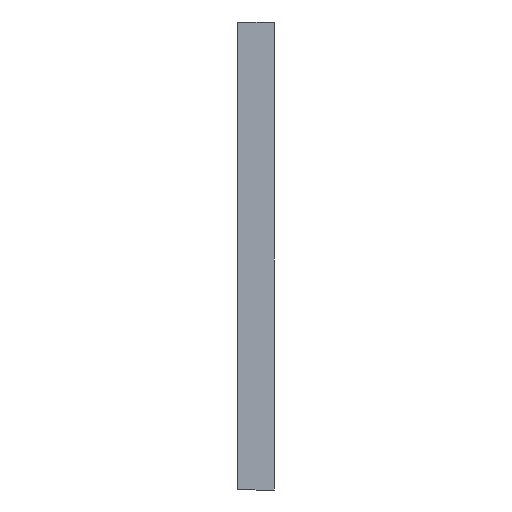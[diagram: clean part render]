
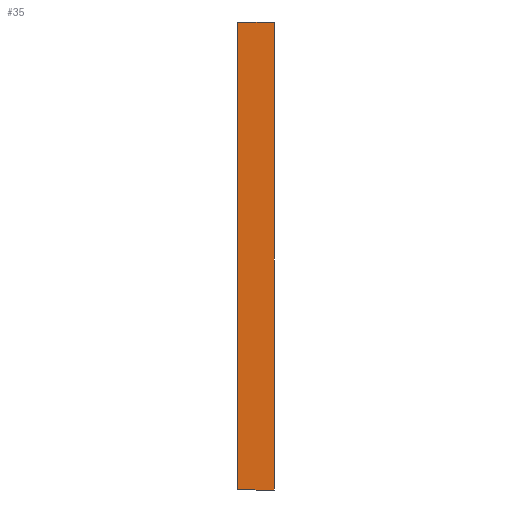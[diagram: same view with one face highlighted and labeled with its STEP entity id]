
A CAD part, front view. The second image highlights one B-rep face of the part: STEP entity #35.
In plain terms, the highlighted planar face has unit normal (0, -1, 0) as drawn and (-1, 0, 0) by its records, which use the part's own axes.
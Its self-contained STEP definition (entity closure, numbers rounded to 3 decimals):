
#35 = ADVANCED_FACE('',(#36),#50,.T.);
#36 = FACE_BOUND('',#37,.T.);
#37 = EDGE_LOOP('',(#38,#73,#101,#129));
#38 = ORIENTED_EDGE('',*,*,#39,.T.);
#39 = EDGE_CURVE('',#40,#42,#44,.T.);
#40 = VERTEX_POINT('',#41);
#41 = CARTESIAN_POINT('',(-38.95,-19.38,0.));
#42 = VERTEX_POINT('',#43);
#43 = CARTESIAN_POINT('',(-38.95,-19.38,2.995));
#44 = SURFACE_CURVE('',#45,(#49,#61),.PCURVE_S1.);
#45 = LINE('',#46,#47);
#46 = CARTESIAN_POINT('',(-38.95,-19.38,0.));
#47 = VECTOR('',#48,1.);
#48 = DIRECTION('',(0.,0.,1.));
#49 = PCURVE('',#50,#55);
#50 = PLANE('',#51);
#51 = AXIS2_PLACEMENT_3D('',#52,#53,#54);
#52 = CARTESIAN_POINT('',(-38.95,-19.38,0.));
#53 = DIRECTION('',(-1.,0.,0.));
#54 = DIRECTION('',(0.,1.,0.));
#55 = DEFINITIONAL_REPRESENTATION('',(#56),#60);
#56 = LINE('',#57,#58);
#57 = CARTESIAN_POINT('',(0.,0.));
#58 = VECTOR('',#59,1.);
#59 = DIRECTION('',(0.,-1.));
#60 = ( GEOMETRIC_REPRESENTATION_CONTEXT(2) 
PARAMETRIC_REPRESENTATION_CONTEXT() REPRESENTATION_CONTEXT('2D SPACE',''
  ) );
#61 = PCURVE('',#62,#67);
#62 = PLANE('',#63);
#63 = AXIS2_PLACEMENT_3D('',#64,#65,#66);
#64 = CARTESIAN_POINT('',(-38.95,-19.38,0.));
#65 = DIRECTION('',(0.,1.,0.));
#66 = DIRECTION('',(1.,0.,0.));
#67 = DEFINITIONAL_REPRESENTATION('',(#68),#72);
#68 = LINE('',#69,#70);
#69 = CARTESIAN_POINT('',(0.,0.));
#70 = VECTOR('',#71,1.);
#71 = DIRECTION('',(0.,-1.));
#72 = ( GEOMETRIC_REPRESENTATION_CONTEXT(2) 
PARAMETRIC_REPRESENTATION_CONTEXT() REPRESENTATION_CONTEXT('2D SPACE',''
  ) );
#73 = ORIENTED_EDGE('',*,*,#74,.T.);
#74 = EDGE_CURVE('',#42,#75,#77,.T.);
#75 = VERTEX_POINT('',#76);
#76 = CARTESIAN_POINT('',(-38.95,19.38,2.995));
#77 = SURFACE_CURVE('',#78,(#82,#89),.PCURVE_S1.);
#78 = LINE('',#79,#80);
#79 = CARTESIAN_POINT('',(-38.95,0.,2.995));
#80 = VECTOR('',#81,1.);
#81 = DIRECTION('',(0.,1.,0.));
#82 = PCURVE('',#50,#83);
#83 = DEFINITIONAL_REPRESENTATION('',(#84),#88);
#84 = LINE('',#85,#86);
#85 = CARTESIAN_POINT('',(19.38,-2.995));
#86 = VECTOR('',#87,1.);
#87 = DIRECTION('',(1.,0.));
#88 = ( GEOMETRIC_REPRESENTATION_CONTEXT(2) 
PARAMETRIC_REPRESENTATION_CONTEXT() REPRESENTATION_CONTEXT('2D SPACE',''
  ) );
#89 = PCURVE('',#90,#95);
#90 = PLANE('',#91);
#91 = AXIS2_PLACEMENT_3D('',#92,#93,#94);
#92 = CARTESIAN_POINT('',(0.,0.,2.995));
#93 = DIRECTION('',(0.,0.,1.));
#94 = DIRECTION('',(1.,0.,0.));
#95 = DEFINITIONAL_REPRESENTATION('',(#96),#100);
#96 = LINE('',#97,#98);
#97 = CARTESIAN_POINT('',(-38.95,0.));
#98 = VECTOR('',#99,1.);
#99 = DIRECTION('',(0.,1.));
#100 = ( GEOMETRIC_REPRESENTATION_CONTEXT(2) 
PARAMETRIC_REPRESENTATION_CONTEXT() REPRESENTATION_CONTEXT('2D SPACE',''
  ) );
#101 = ORIENTED_EDGE('',*,*,#102,.F.);
#102 = EDGE_CURVE('',#103,#75,#105,.T.);
#103 = VERTEX_POINT('',#104);
#104 = CARTESIAN_POINT('',(-38.95,19.38,0.));
#105 = SURFACE_CURVE('',#106,(#110,#117),.PCURVE_S1.);
#106 = LINE('',#107,#108);
#107 = CARTESIAN_POINT('',(-38.95,19.38,0.));
#108 = VECTOR('',#109,1.);
#109 = DIRECTION('',(0.,0.,1.));
#110 = PCURVE('',#50,#111);
#111 = DEFINITIONAL_REPRESENTATION('',(#112),#116);
#112 = LINE('',#113,#114);
#113 = CARTESIAN_POINT('',(38.76,0.));
#114 = VECTOR('',#115,1.);
#115 = DIRECTION('',(0.,-1.));
#116 = ( GEOMETRIC_REPRESENTATION_CONTEXT(2) 
PARAMETRIC_REPRESENTATION_CONTEXT() REPRESENTATION_CONTEXT('2D SPACE',''
  ) );
#117 = PCURVE('',#118,#123);
#118 = PLANE('',#119);
#119 = AXIS2_PLACEMENT_3D('',#120,#121,#122);
#120 = CARTESIAN_POINT('',(-38.95,19.38,0.));
#121 = DIRECTION('',(0.,1.,0.));
#122 = DIRECTION('',(1.,0.,0.));
#123 = DEFINITIONAL_REPRESENTATION('',(#124),#128);
#124 = LINE('',#125,#126);
#125 = CARTESIAN_POINT('',(0.,0.));
#126 = VECTOR('',#127,1.);
#127 = DIRECTION('',(0.,-1.));
#128 = ( GEOMETRIC_REPRESENTATION_CONTEXT(2) 
PARAMETRIC_REPRESENTATION_CONTEXT() REPRESENTATION_CONTEXT('2D SPACE',''
  ) );
#129 = ORIENTED_EDGE('',*,*,#130,.F.);
#130 = EDGE_CURVE('',#40,#103,#131,.T.);
#131 = SURFACE_CURVE('',#132,(#136,#143),.PCURVE_S1.);
#132 = LINE('',#133,#134);
#133 = CARTESIAN_POINT('',(-38.95,0.,0.));
#134 = VECTOR('',#135,1.);
#135 = DIRECTION('',(0.,1.,0.));
#136 = PCURVE('',#50,#137);
#137 = DEFINITIONAL_REPRESENTATION('',(#138),#142);
#138 = LINE('',#139,#140);
#139 = CARTESIAN_POINT('',(19.38,0.));
#140 = VECTOR('',#141,1.);
#141 = DIRECTION('',(1.,0.));
#142 = ( GEOMETRIC_REPRESENTATION_CONTEXT(2) 
PARAMETRIC_REPRESENTATION_CONTEXT() REPRESENTATION_CONTEXT('2D SPACE',''
  ) );
#143 = PCURVE('',#144,#149);
#144 = PLANE('',#145);
#145 = AXIS2_PLACEMENT_3D('',#146,#147,#148);
#146 = CARTESIAN_POINT('',(0.,0.,0.));
#147 = DIRECTION('',(0.,0.,1.));
#148 = DIRECTION('',(1.,0.,0.));
#149 = DEFINITIONAL_REPRESENTATION('',(#150),#154);
#150 = LINE('',#151,#152);
#151 = CARTESIAN_POINT('',(-38.95,0.));
#152 = VECTOR('',#153,1.);
#153 = DIRECTION('',(0.,1.));
#154 = ( GEOMETRIC_REPRESENTATION_CONTEXT(2) 
PARAMETRIC_REPRESENTATION_CONTEXT() REPRESENTATION_CONTEXT('2D SPACE',''
  ) );
